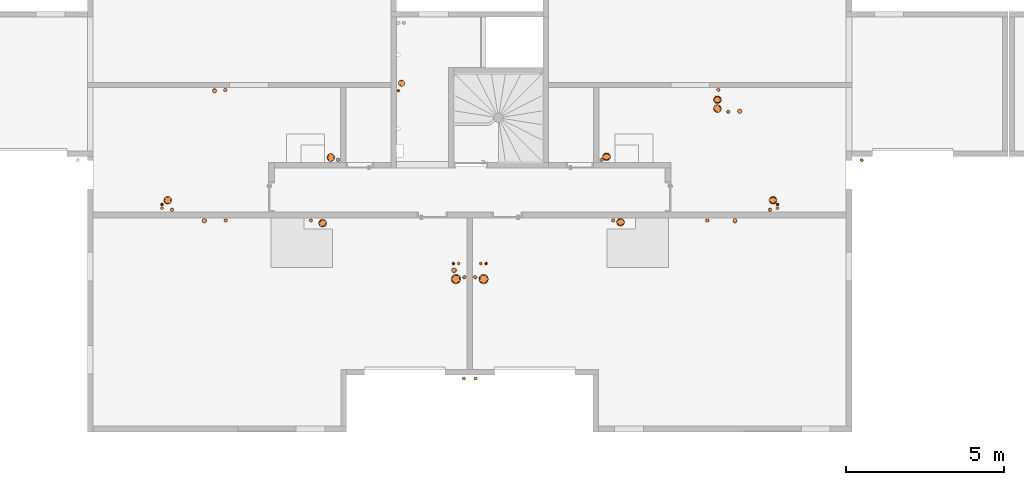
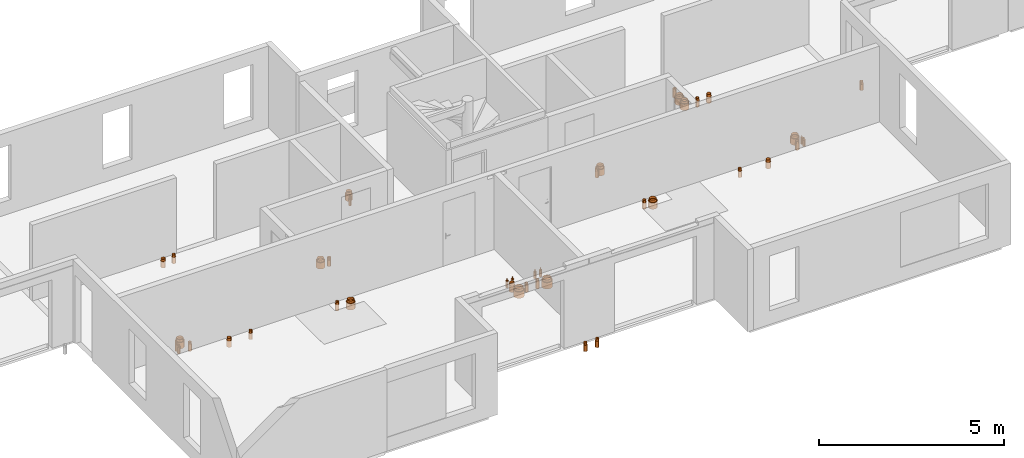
# One storey, part 26 of 30: 41 proxies.
"""IFC2X3 building model written with IfcOpenShell, lengths in centimetres."""

from ifc_helpers import new_model, entity, si_unit, converted_unit, derived_unit, direction, frame, frame_2d, origin, place, context, subcontext, project, spatial, circle, hollow_circle, extrude, source, transform, mapped, material, type_object, type_shapes, element, save


model = new_model("IFC2X3")

# Units and contexts
model_context = context("Model", 3, precision=0.001, world=origin(), true_north=direction((6.12303176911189e-17, 1.0)))
body_context = subcontext(model_context, "Body", "Model", "MODEL_VIEW")
ifc_project = project(units=[si_unit("LENGTHUNIT", "METRE", prefix="CENTI"), si_unit("AREAUNIT", "SQUARE_METRE"), si_unit("VOLUMEUNIT", "CUBIC_METRE"), converted_unit("PLANEANGLEUNIT", "DEGREE", entity("IfcRatioMeasure", 0.0174532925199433), si_unit("PLANEANGLEUNIT", "RADIAN"), dimensions=[0, 0, 0, 0, 0, 0, 0]), si_unit("MASSUNIT", "GRAM", prefix="KILO"), derived_unit("MASSDENSITYUNIT", [(si_unit("MASSUNIT", "GRAM", prefix="KILO"), 1), (si_unit("LENGTHUNIT", "METRE"), -3)]), si_unit("TIMEUNIT", "SECOND"), si_unit("FREQUENCYUNIT", "HERTZ"), si_unit("THERMODYNAMICTEMPERATUREUNIT", "DEGREE_CELSIUS"), derived_unit("THERMALTRANSMITTANCEUNIT", [(si_unit("MASSUNIT", "GRAM", prefix="KILO"), 1), (si_unit("THERMODYNAMICTEMPERATUREUNIT", "KELVIN"), -1), (si_unit("TIMEUNIT", "SECOND"), -3)]), derived_unit("VOLUMETRICFLOWRATEUNIT", [(si_unit("LENGTHUNIT", "METRE"), 3), (si_unit("TIMEUNIT", "SECOND"), -1)]), si_unit("ELECTRICCURRENTUNIT", "AMPERE"), si_unit("ELECTRICVOLTAGEUNIT", "VOLT"), si_unit("POWERUNIT", "WATT"), si_unit("FORCEUNIT", "NEWTON"), si_unit("ILLUMINANCEUNIT", "LUX"), si_unit("LUMINOUSFLUXUNIT", "LUMEN"), si_unit("LUMINOUSINTENSITYUNIT", "CANDELA"), derived_unit("USERDEFINED", [(si_unit("MASSUNIT", "GRAM", prefix="KILO"), -1), (si_unit("LENGTHUNIT", "METRE"), -2), (si_unit("TIMEUNIT", "SECOND"), 3), (si_unit("LUMINOUSFLUXUNIT", "LUMEN"), 1)]), derived_unit("LINEARVELOCITYUNIT", [(si_unit("LENGTHUNIT", "METRE"), 1), (si_unit("TIMEUNIT", "SECOND"), -1)]), si_unit("PRESSUREUNIT", "PASCAL"), derived_unit("USERDEFINED", [(si_unit("LENGTHUNIT", "METRE"), -2), (si_unit("MASSUNIT", "GRAM", prefix="KILO"), 1), (si_unit("TIMEUNIT", "SECOND"), -2)])], contexts=[model_context])

# Site, building, storey
site_placement = place(None, origin())
site = spatial("IfcSite", under=ifc_project, at=site_placement, Name="Default", CompositionType="ELEMENT")
building_placement = place(site_placement, origin())
building = spatial("IfcBuilding", under=site, at=building_placement, Name="CAGE 03", CompositionType="ELEMENT")
storey_placement = place(building_placement, frame((0.0, 0.0, 610.0)))
storey = spatial("IfcBuildingStorey", under=building, at=storey_placement, Name="R+2", CompositionType="ELEMENT", Elevation=610.0)

# Proxies
ifc_material_1 = material(Name="Conduit VMC")
building_element_proxy_type_1 = type_object("IfcBuildingElementProxyType", Name="CFO235 P210", PredefinedType="NOTDEFINED", material=ifc_material_1)
shared_shape_1 = source(origin(), body_context, "Body", "SweptSolid", [
    extrude(circle(Radius=12.5, at=frame_2d((0.0, -2.01943071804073e-14), x_axis=(1.0, 0.0))), frame((0.0, 0.0, -21.0)), (0.0, 0.0, 1.0), 21.0),
    extrude(hollow_circle(Radius=10.0, WallThickness=0.5, at=frame_2d((0.0, -1.61554457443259e-14), x_axis=(1.0, 0.0))), frame((0.0, 0.0, -21.0)), (0.0, 0.0, 1.0), 28.5),
])
type_shapes(building_element_proxy_type_1, [shared_shape_1])
for number, where, name in (
    (1, (6615.21171708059, 4457.86905232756, -4.46999646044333e-07), "Galette - Résa - PVC1:CFO235 P210"),
    (2, (6641.21764726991, 4665.89258907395, -4.46999646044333e-07), "Galette - Résa - PVC1:CFO235 P210"),
    (3, (8042.36582014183, 4530.34740146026, -4.46999646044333e-07), "Galette - Résa - PVC1:CFO235 P210"),
    (4, (7559.2488384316, 4460.96671430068, -4.46999646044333e-07), "Galette - Résa - PVC1:CFO235 P210"),
    (5, (7514.74923080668, 4668.31646675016, -4.46999646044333e-07), "Galette - Résa - PVC1:CFO235 P210"),
    (6, (6124.28064326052, 4530.34782251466, -4.46999646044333e-07), "Galette - Résa - PVC1:CFO235 P210"),
    (7, (7866.12110627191, 4848.9015173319, -4.46999646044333e-07), "Galette - Résa - PVC1:CFO235 P210"),
    (8, (7866.12110627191, 4820.81133445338, -4.46999646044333e-07), "Galette - Résa - PVC1:CFO235 P210"),
):
    element("IfcBuildingElementProxy", number, at=place(storey_placement, frame(where)), inside=storey, type_object=building_element_proxy_type_1, material=ifc_material_1, Name=name, ObjectType="CFO235 P210", context=body_context, shape_type="MappedRepresentation", body=[
        mapped(shared_shape_1, transform((0.0, 0.0, 0.0), scale=1.0)),
    ])
building_element_proxy_type_2 = type_object("IfcBuildingElementProxyType", Name="CFO140 P135", PredefinedType="NOTDEFINED", material=ifc_material_1)
shared_shape_2 = source(origin(), body_context, "Body", "SweptSolid", [
    extrude(circle(Radius=7.0, at=frame_2d((0.0, -1.13088120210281e-14), x_axis=(1.0, 0.0))), frame((0.0, 0.0, -21.0)), (0.0, 0.0, 1.0), 21.0),
    extrude(hollow_circle(Radius=6.25, WallThickness=0.25, at=frame_2d((0.0, -1.00971535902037e-14), x_axis=(1.0, 0.0))), frame((0.0, 0.0, -21.0)), (0.0, 0.0, 1.0), 28.5),
])
type_shapes(building_element_proxy_type_2, [shared_shape_2])
for number, where, name in (
    (9, (6272.71684356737, 4877.61979162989, -4.46999646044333e-07), "Galette - Résa - PVC1:CFO140 P135"),
    (10, (7937.04783302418, 4812.48976082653, -4.46999646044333e-07), "Galette - Résa - PVC1:CFO140 P135"),
    (11, (7921.88582014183, 4465.36426071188, -4.46999646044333e-07), "Galette - Résa - PVC1:CFO140 P135"),
    (12, (6240.30982300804, 4465.36426071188, -4.46999646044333e-07), "Galette - Résa - PVC1:CFO140 P135"),
):
    element("IfcBuildingElementProxy", number, at=place(storey_placement, frame(where)), inside=storey, type_object=building_element_proxy_type_2, material=ifc_material_1, Name=name, ObjectType="CFO140 P135", context=body_context, shape_type="MappedRepresentation", body=[
        mapped(shared_shape_2, transform((0.0, 0.0, 0.0), scale=1.0)),
    ])
ifc_material_2 = material(Name="Conduit EU")
building_element_proxy_type_3 = type_object("IfcBuildingElementProxyType", Name="CFO125 P110", PredefinedType="NOTDEFINED", material=ifc_material_2)
shared_shape_3 = source(origin(), body_context, "Body", "SweptSolid", [
    extrude(circle(Radius=5.5, at=frame_2d((0.0, -8.88549515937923e-15), x_axis=(1.0, 0.0))), frame((0.0, 0.0, -21.0)), (0.0, 0.0, 1.0), 21.0),
    extrude(hollow_circle(Radius=5.0, WallThickness=0.25, at=frame_2d((0.0, -8.07772287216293e-15), x_axis=(1.0, 0.0))), frame((0.0, 0.0, -21.0)), (0.0, 0.0, 1.0), 28.5),
])
type_shapes(building_element_proxy_type_3, [shared_shape_3])
for number, where, name in (
    (13, (6306.86255901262, 4879.61979162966, -4.46999646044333e-07), "Galette - Résa - PVC1:CFO125 P110"),
    (14, (7499.31984891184, 4658.65915732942, -4.46999646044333e-07), "Galette - Résa - PVC1:CFO125 P110"),
    (15, (8032.6158201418, 4500.32488712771, -4.46999646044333e-07), "Galette - Résa - PVC1:CFO125 P110"),
    (16, (7833.87946784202, 4466.32821753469, -4.46999646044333e-07), "Galette - Résa - PVC1:CFO125 P110"),
    (17, (7535.77855002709, 4466.36505499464, -4.46999646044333e-07), "Galette - Résa - PVC1:CFO125 P110"),
    (18, (7098.50805140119, 4286.58036411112, -4.46999646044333e-07), "Galette - Résa - PVC1:CFO125 P110"),
    (19, (7064.37018928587, 4286.58443855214, -4.46999646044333e-07), "Galette - Résa - PVC1:CFO125 P110"),
    (20, (6578.06629120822, 4466.41087994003, -4.46999646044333e-07), "Galette - Résa - PVC1:CFO125 P110"),
    (21, (6138.03810127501, 4500.35421277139, -4.46999646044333e-07), "Galette - Résa - PVC1:CFO125 P110"),
    (22, (6308.05703024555, 4466.34830105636, -4.46999646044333e-07), "Galette - Résa - PVC1:CFO125 P110"),
    (23, (6663.71163151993, 4658.39319282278, -4.46999646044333e-07), "Galette - Résa - PVC1:CFO125 P110"),
    (24, (7900.36170292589, 4810.74663032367, -4.46999646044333e-07), "Galette - Résa - PVC1:CFO125 P110"),
    (25, (7869.14720305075, 4880.10916521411, -4.46999646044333e-07), "Galette - Résa - PVC1:CFO125 P110"),
):
    element("IfcBuildingElementProxy", number, at=place(storey_placement, frame(where)), inside=storey, type_object=building_element_proxy_type_3, material=ifc_material_2, Name=name, ObjectType="CFO125 P110", context=body_context, shape_type="MappedRepresentation", body=[
        mapped(shared_shape_3, transform((0.0, 0.0, 0.0), scale=1.0)),
    ])
ifc_material_3 = material(Name="Conduit EP")
building_element_proxy_type_4 = type_object("IfcBuildingElementProxyType", Name="EP 101", PredefinedType="NOTDEFINED", material=ifc_material_3)
shared_shape_4 = source(origin(), body_context, "Body", "SweptSolid", [
    extrude(circle(Radius=5.5, at=frame_2d((0.0, -8.88549515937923e-15), x_axis=(1.0, 0.0))), frame((0.0, 0.0, -21.0)), (0.0, 0.0, 1.0), 21.0),
    extrude(hollow_circle(Radius=5.0, WallThickness=0.25, at=frame_2d((0.0, -8.07772287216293e-15), x_axis=(1.0, 0.0))), frame((0.0, 0.0, -21.0)), (0.0, 0.0, 1.0), 28.5),
])
type_shapes(building_element_proxy_type_4, [shared_shape_4])
for number, where, name in (
    (26, (7062.86582051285, 3965.65818063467, -4.46999646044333e-07), "Galette - Résa - PVC1:EP 101"),
    (27, (7099.86582014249, 3965.65818063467, -4.46999646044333e-07), "Galette - Résa - PVC1:EP 101"),
    (28, (8323.37148757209, 4657.4015244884, -4.46999646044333e-07), "Galette - Résa - PVC1:EP 101"),
):
    element("IfcBuildingElementProxy", number, at=place(storey_placement, frame(where)), inside=storey, type_object=building_element_proxy_type_4, material=ifc_material_3, Name=name, ObjectType="EP 101", context=body_context, shape_type="MappedRepresentation", body=[
        mapped(shared_shape_4, transform((0.0, 0.0, 0.0), scale=1.0)),
    ])
building_element_proxy_type_5 = type_object("IfcBuildingElementProxyType", Name="EP 161", PredefinedType="NOTDEFINED", material=ifc_material_3)
shared_shape_5 = source(origin(), body_context, "Body", "SweptSolid", [
    extrude(circle(Radius=10.0, at=frame_2d((0.0, -1.61554457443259e-14), x_axis=(1.0, 0.0))), frame((0.0, 0.0, -21.0)), (0.0, 0.0, 1.0), 21.0),
    extrude(hollow_circle(Radius=8.0, WallThickness=0.250000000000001, at=frame_2d((0.0, -1.29243565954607e-14), x_axis=(1.0, 0.0))), frame((0.0, 0.0, -21.0)), (0.0, 0.0, 1.0), 28.5),
])
type_shapes(building_element_proxy_type_5, [shared_shape_5])
proxy_1_placement = place(storey_placement, frame((6865.50026930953, 4901.35358864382, -4.46999646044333e-07)))
element("IfcBuildingElementProxy", 29, at=proxy_1_placement, inside=storey, type_object=building_element_proxy_type_5, material=ifc_material_3, Name="Galette - Résa - PVC1:EP 161", ObjectType="EP 161", context=body_context, shape_type="MappedRepresentation", body=[
    mapped(shared_shape_5, transform((0.0, 0.0, 0.0), scale=1.0)),
])
building_element_proxy_type_6 = type_object("IfcBuildingElementProxyType", Name="CFO160 P150", PredefinedType="NOTDEFINED", material=ifc_material_3)
shared_shape_6 = source(origin(), body_context, "Body", "SweptSolid", [
    extrude(circle(Radius=8.0, at=frame_2d((0.0, -1.29243565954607e-14), x_axis=(1.0, 0.0))), frame((0.0, 0.0, -21.0)), (0.0, 0.0, 1.0), 21.0),
    extrude(hollow_circle(Radius=7.0, WallThickness=0.25, at=frame_2d((0.0, -1.13088120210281e-14), x_axis=(1.0, 0.0))), frame((0.0, 0.0, -21.0)), (0.0, 0.0, 1.0), 28.5),
])
type_shapes(building_element_proxy_type_6, [shared_shape_6])
proxy_2_placement = place(storey_placement, frame((7031.90297713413, 4308.4720260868, -4.46999646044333e-07)))
element("IfcBuildingElementProxy", 30, at=proxy_2_placement, inside=storey, type_object=building_element_proxy_type_6, material=ifc_material_3, Name="Galette - Résa - PVC1:CFO160 P150", ObjectType="CFO160 P150", context=body_context, shape_type="MappedRepresentation", body=[
    mapped(shared_shape_6, transform((0.0, 0.0, 0.0), scale=1.0)),
])
building_element_proxy_type_7 = type_object("IfcBuildingElementProxyType", Name="CFO285 P260", PredefinedType="NOTDEFINED", material=ifc_material_1)
shared_shape_7 = source(origin(), body_context, "Body", "SweptSolid", [
    extrude(circle(Radius=15.0, at=frame_2d((0.0, -2.42331686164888e-14), x_axis=(1.0, 0.0))), frame((0.0, 0.0, -21.0)), (0.0, 0.0, 1.0), 21.0),
    extrude(hollow_circle(Radius=12.5, WallThickness=0.499999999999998, at=frame_2d((0.0, -2.01943071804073e-14), x_axis=(1.0, 0.0))), frame((0.0, 0.0, -21.0)), (0.0, 0.0, 1.0), 28.5),
])
type_shapes(building_element_proxy_type_7, [shared_shape_7])
for number, where, name in (
    (31, (7037.61602078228, 4280.58090900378, -4.46999646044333e-07), "Galette - Résa - PVC1:CFO285 P260"),
    (32, (7125.26139128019, 4280.58090900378, -4.46999646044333e-07), "Galette - Résa - PVC1:CFO285 P260"),
):
    element("IfcBuildingElementProxy", number, at=place(storey_placement, frame(where)), inside=storey, type_object=building_element_proxy_type_7, material=ifc_material_1, Name=name, ObjectType="CFO285 P260", context=body_context, shape_type="MappedRepresentation", body=[
        mapped(shared_shape_7, transform((0.0, 0.0, 0.0), scale=1.0)),
    ])
ifc_material_4 = material(Name="Circuit ECS Aller")
building_element_proxy_type_8 = type_object("IfcBuildingElementProxyType", Name="CFO100 P90", PredefinedType="NOTDEFINED", material=ifc_material_4)
shared_shape_8 = source(origin(), body_context, "Body", "SweptSolid", [
    extrude(circle(Radius=4.5, at=frame_2d((0.0, -7.26995058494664e-15), x_axis=(1.0, 0.0))), frame((0.0, 0.0, -21.0)), (0.0, 0.0, 1.0), 21.0),
    extrude(hollow_circle(Radius=1.6, WallThickness=0.05, at=frame_2d((0.0, -2.58487131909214e-15), x_axis=(1.0, 0.0))), frame((0.0, 0.0, -21.0)), (0.0, 0.0, 1.0), 28.5),
])
type_shapes(building_element_proxy_type_8, [shared_shape_8])
for number, where, name in (
    (33, (8056.54479855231, 4505.23903904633, -4.46999646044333e-07), "Galette - Résa - PVC1:CFO100 P90"),
    (34, (7046.26768929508, 4329.86526421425, -4.46999646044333e-07), "Galette - Résa - PVC1:CFO100 P90"),
    (35, (7116.44860425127, 4329.86526421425, -4.46999646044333e-07), "Galette - Résa - PVC1:CFO100 P90"),
    (36, (6106.22273629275, 4505.23903904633, -4.46999646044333e-07), "Galette - Résa - PVC1:CFO100 P90"),
):
    element("IfcBuildingElementProxy", number, at=place(storey_placement, frame(where)), inside=storey, type_object=building_element_proxy_type_8, material=ifc_material_4, Name=name, ObjectType="CFO100 P90", context=body_context, shape_type="MappedRepresentation", body=[
        mapped(shared_shape_8, transform((0.0, 0.0, 0.0), scale=1.0)),
    ])
ifc_material_5 = material(Name="Circuit ECS Retour")
building_element_proxy_type_9 = type_object("IfcBuildingElementProxyType", Name="CFO100 P80", PredefinedType="NOTDEFINED", material=ifc_material_5)
shared_shape_9 = source(origin(), body_context, "Body", "SweptSolid", [
    extrude(circle(Radius=4.0, at=frame_2d((0.0, -6.46217829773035e-15), x_axis=(1.0, 0.0))), frame((0.0, 0.0, -21.0)), (0.0, 0.0, 1.0), 21.0),
    extrude(hollow_circle(Radius=1.0, WallThickness=0.0500000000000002, at=frame_2d((0.0, -1.61554457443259e-15), x_axis=(1.0, 0.0))), frame((0.0, 0.0, -21.0)), (0.0, 0.0, 1.0), 28.5),
])
type_shapes(building_element_proxy_type_9, [shared_shape_9])
for number, where, name in (
    (37, (8056.54479855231, 4517.07558993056, -4.46999646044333e-07), "Galette - Résa - PVC1:CFO100 P80"),
    (38, (7133.44860425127, 4329.86526421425, -4.46999646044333e-07), "Galette - Résa - PVC1:CFO100 P80"),
    (39, (7029.26768929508, 4329.86526421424, -4.46999646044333e-07), "Galette - Résa - PVC1:CFO100 P80"),
    (40, (6106.22273629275, 4517.07558993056, -4.46999646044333e-07), "Galette - Résa - PVC1:CFO100 P80"),
):
    element("IfcBuildingElementProxy", number, at=place(storey_placement, frame(where)), inside=storey, type_object=building_element_proxy_type_9, material=ifc_material_5, Name=name, ObjectType="CFO100 P80", context=body_context, shape_type="MappedRepresentation", body=[
        mapped(shared_shape_9, transform((0.0, 0.0, 0.0), scale=1.0)),
    ])
ifc_material_6 = material(Name="Circuit EF")
building_element_proxy_type_10 = type_object("IfcBuildingElementProxyType", Name="EF 41", PredefinedType="NOTDEFINED", material=ifc_material_6)
shared_shape_10 = source(origin(), body_context, "Body", "SweptSolid", [
    extrude(circle(Radius=4.5, at=frame_2d((0.0, -7.26995058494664e-15), x_axis=(1.0, 0.0))), frame((0.0, 0.0, -21.0)), (0.0, 0.0, 1.0), 21.0),
    extrude(hollow_circle(Radius=2.2, WallThickness=0.449999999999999, at=frame_2d((0.0, -3.55419806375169e-15), x_axis=(1.0, 0.0))), frame((0.0, 0.0, -21.0)), (0.0, 0.0, 1.0), 28.5),
])
type_shapes(building_element_proxy_type_10, [shared_shape_10])
proxy_3_placement = place(storey_placement, frame((6855.36638671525, 4877.15864997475, -4.46999646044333e-07)))
element("IfcBuildingElementProxy", 41, at=proxy_3_placement, inside=storey, type_object=building_element_proxy_type_10, material=ifc_material_6, Name="Galette - Résa - PVC1:EF 41", ObjectType="EF 41", context=body_context, shape_type="MappedRepresentation", body=[
    mapped(shared_shape_10, transform((0.0, 0.0, 0.0), scale=1.0)),
])

save(model, "model.ifc")
